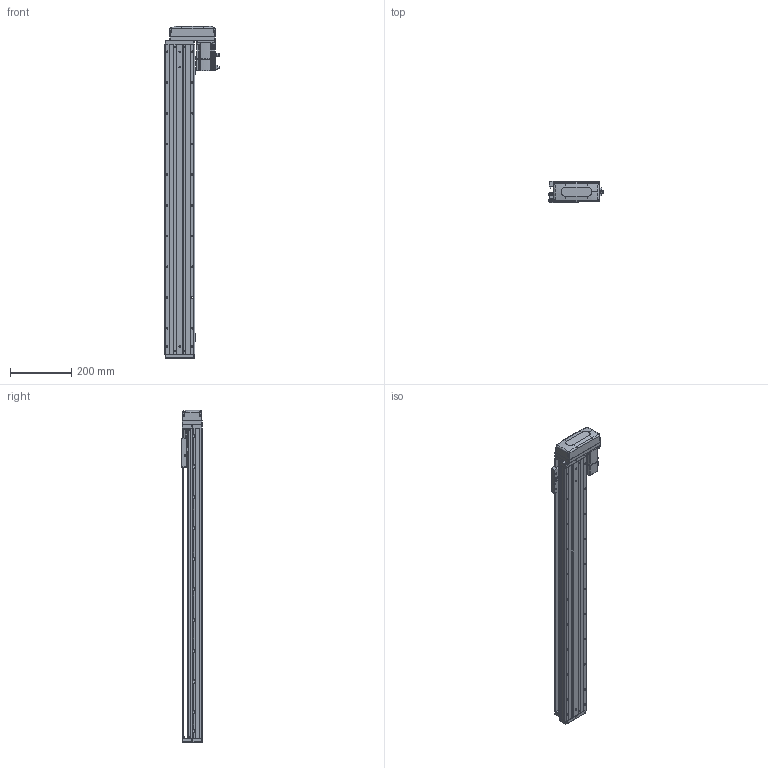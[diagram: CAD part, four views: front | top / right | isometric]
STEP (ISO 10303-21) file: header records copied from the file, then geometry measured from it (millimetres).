
FILE_DESCRIPTION (( 'STEP AP203' ), '1' );
FILE_NAME ('KTHA100-850-BL-M20-C4L.step', '2022-04-26T01:50:15', ( '微软用户' ), ( '微软中国' ), 'SwSTEP 2.0', 'SolidWorks 2020', '' );
FILE_SCHEMA (( 'CONFIG_CONTROL_DESIGN' ));
Length unit declared in the file: millimetre
Products named in the file (17): KTHA100-004; GBT 70.1-M3℅6; KTHA100-850-BL-M20-C4L; KTHA100-005; GBT70.1 M5℅16; GB¨uT 70.2-M3¡Á5_M3¡Á6; CTHA60-016; EE_SX911P_R; GBT 70.3-M3℅6; CTHA60-017; _X2_4E0983F1_X0_200W_1; KTHA100-001_1010; CTHA60-021; CTHA86-015-1_CTHA86-015-2; KTHA100-002; GBT77-2000 M3×3; CTHA86-033
Assembly tree (57 placements, depth 2):
  KTHA100-850-BL-M20-C4L
    KTHA100-001_1010
    KTHA100-002
    KTHA100-004
    KTHA100-005
    GB¨uT 70.2-M3¡Á5_M3¡Á6  x6
    EE_SX911P_R  x3
    CTHA60-017  x3
    CTHA60-021  x2
    GBT77-2000 M3×3  x6
    GBT 70.1-M3℅6  x10
    GBT70.1 M5℅16  x14
    CTHA60-016  x2
    GBT 70.3-M3℅6  x4
    _X2_4E0983F1_X0_200W_1
    CTHA86-015-1_CTHA86-015-2
    CTHA86-033
Bounding box: 177.7 x 68 x 1081 mm (x, y, z)
Volume: 4583027.8 mm3; surface area: 743787.1 mm2
Topology: 60 solids, 60 shells, 2497 faces, 6001 edges, 3724 vertices
Faces by surface type: plane 1280, cylinder 695, cone 315, torus 116, bspline 75, sphere 16
Entity records: 43886 total; most frequent: CARTESIAN_POINT 8784, DIRECTION 6822, ORIENTED_EDGE 6614, EDGE_CURVE 3307, AXIS2_PLACEMENT_3D 2370, VERTEX_POINT 2084, VECTOR 2082, LINE 2082
